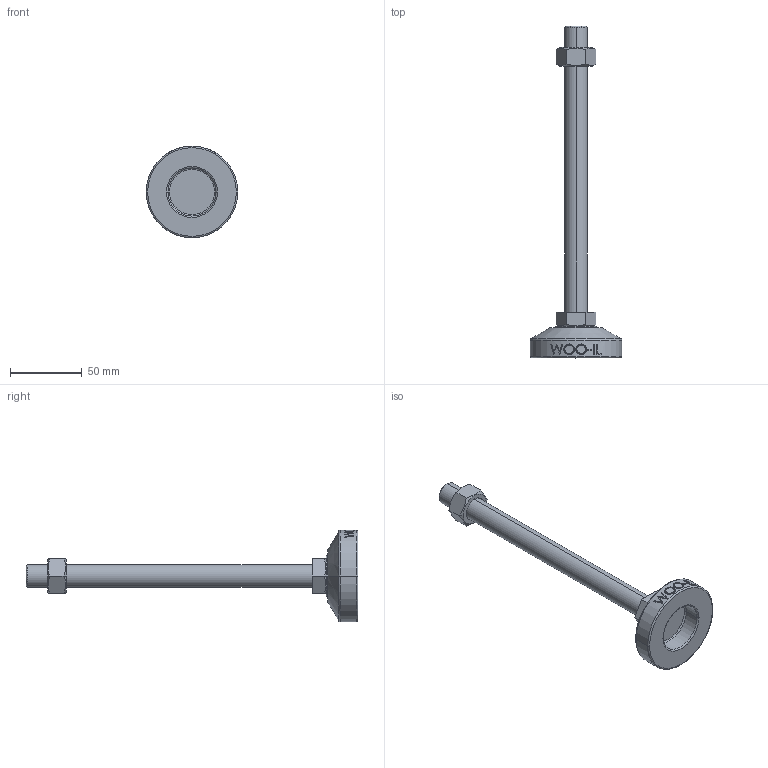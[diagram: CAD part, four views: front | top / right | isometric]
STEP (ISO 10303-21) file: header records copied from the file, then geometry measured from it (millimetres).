
FILE_DESCRIPTION (( 'STEP AP214' ), '1' );
FILE_NAME ('MFZ64-M16-200.step', '2021-01-15T07:06:25', ( '' ), ( '' ), 'SwSTEP 2.0', 'SolidWorks 2019', '' );
FILE_SCHEMA (( 'AUTOMOTIVE_DESIGN' ));
Length unit declared in the file: millimetre
Products named in the file (2): MFZ64-M16-200
Bounding box: 64 x 232 x 64 mm (x, y, z)
Volume: 96604 mm3; surface area: 24649.8 mm2
Topology: 3 solids, 3 shells, 106 faces, 243 edges, 154 vertices
Faces by surface type: plane 48, cylinder 18, bspline 16, cone 14, torus 10
Entity records: 4520 total; most frequent: CARTESIAN_POINT 2177, ORIENTED_EDGE 486, DIRECTION 439, EDGE_CURVE 243, AXIS2_PLACEMENT_3D 170, VERTEX_POINT 154, EDGE_LOOP 119, FACE_OUTER_BOUND 106
